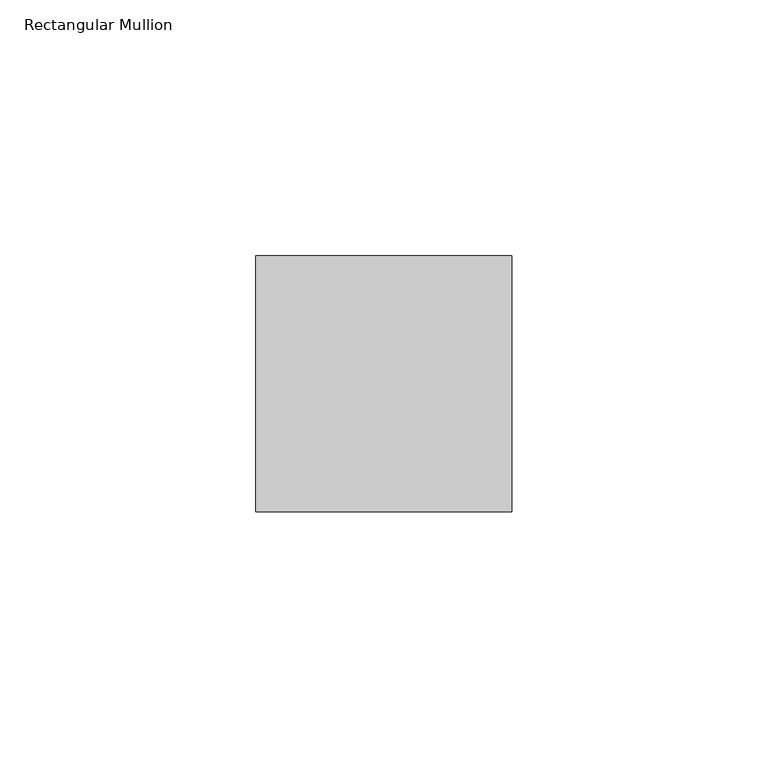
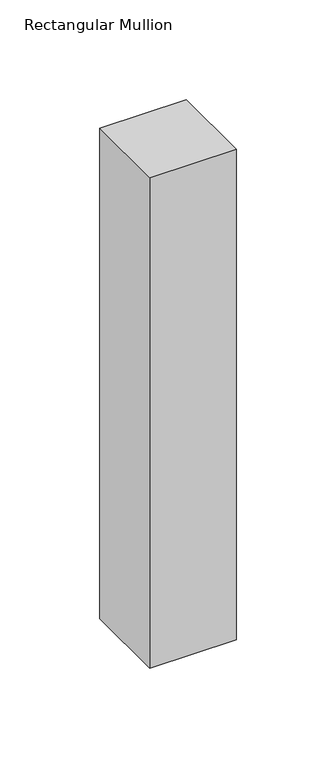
"""IFC4 building model written with IfcOpenShell, lengths in millimetres: member geometry, Rectangular Mullion : RSen_21_CWM_support profile 50x50 - left_gen_duco projects."""

from ifc_helpers import new_model, si_unit, frame, origin, place, context, project, spatial, polyline, outline, extrude, source, transform, mapped, element, save


def rectangular_mullion_bcb65166(model_context):
    return source(origin(), model_context, "Body", "SweptSolid", [
        extrude(outline(polyline([(0.0, 1.0), (0.0, -49.0), (-50.0, -49.0), (-50.0, 1.0), (0.0, 1.0)])), frame((0.0, 0.0, -300.0), z_axis=(0.0, 0.0, 1.0), x_axis=(1.0, 0.0, 0.0)), (0.0, 0.0, 1.0), 300.0),
    ])


if __name__ == "__main__":
    model = new_model("IFC4")
    model_context = context("Model", 3, world=origin())
    ifc_project = project(units=[si_unit("LENGTHUNIT", "METRE", prefix="MILLI")], contexts=[model_context])
    site = spatial("IfcSite", under=ifc_project)
    building = spatial("IfcBuilding", under=site)
    placement = place(None, origin())
    rectangular_mullion_shape = rectangular_mullion_bcb65166(model_context)
    element("IfcMember", 1, ObjectType="Rectangular Mullion : RSen_21_CWM_support profile 50x50 - left_gen_duco projects", at=placement, inside=building, context=model_context, shape_type="MappedRepresentation", body=[
        mapped(rectangular_mullion_shape, transform((0.0, 0.0, 0.0), x_axis=(1.0, 0.0, 0.0), y_axis=(0.0, 1.0, 0.0), z_axis=(0.0, 0.0, 1.0))),
    ])
    save(model, "model.ifc")
